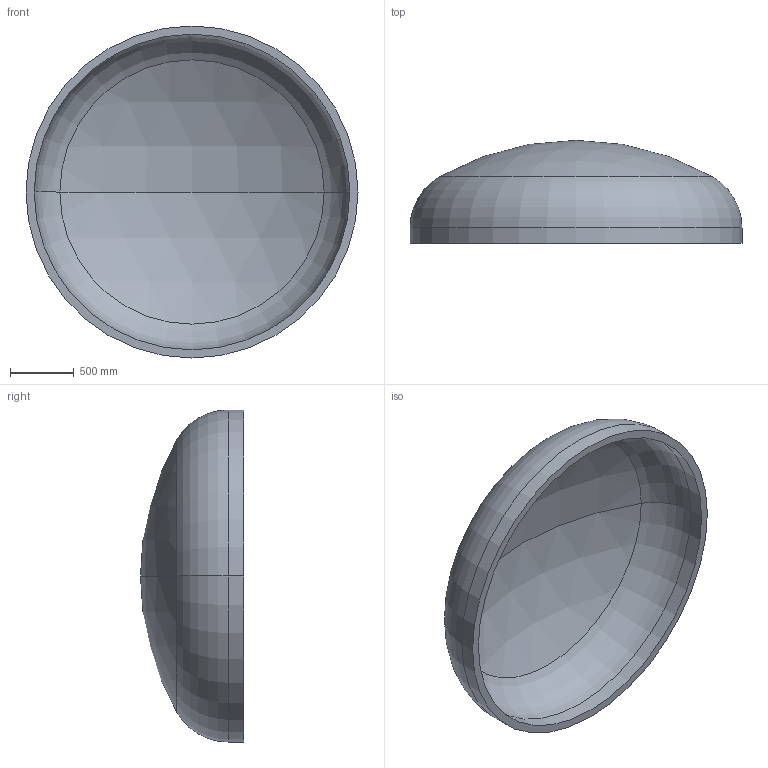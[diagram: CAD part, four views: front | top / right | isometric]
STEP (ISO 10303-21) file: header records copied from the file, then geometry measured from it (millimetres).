
FILE_DESCRIPTION (( 'STEP AP203' ), '1' );
FILE_NAME ('DIN 28013 Korbbogenform_-_Boden DIN 28013 - 2600 x 120 - I - s=64.step', '2016-07-01T16:20:20', ( '' ), ( '' ), 'SwSTEP 2.0', 'SolidWorks 2013', '' );
FILE_SCHEMA (( 'CONFIG_CONTROL_DESIGN' ));
Length unit declared in the file: millimetre
Products named in the file (1): DIN 28013 Korbbogenform_-_Boden DIN 28013 - 2600 x 120 - I - s=64
Bounding box: 2600 x 806.78 x 2600 mm (x, y, z)
Volume: 516751128.8 mm3; surface area: 16666939.2 mm2
Topology: 1 solids, 1 shells, 13 faces, 24 edges, 14 vertices
Faces by surface type: torus 4, cylinder 4, sphere 4, plane 1
Entity records: 407 total; most frequent: DIRECTION 72, CARTESIAN_POINT 52, ORIENTED_EDGE 48, AXIS2_PLACEMENT_3D 34, EDGE_CURVE 24, CIRCLE 20, VERTEX_POINT 14, EDGE_LOOP 14
